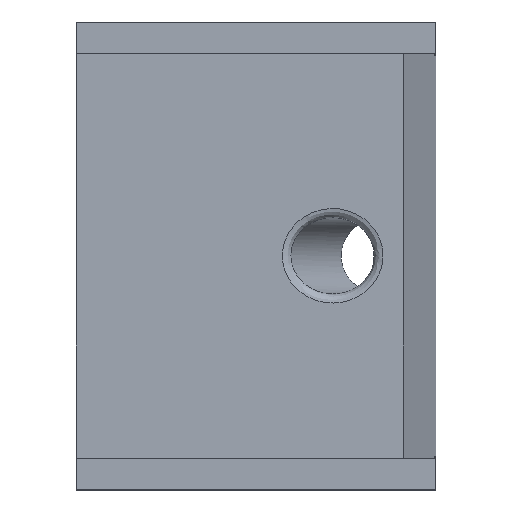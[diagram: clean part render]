
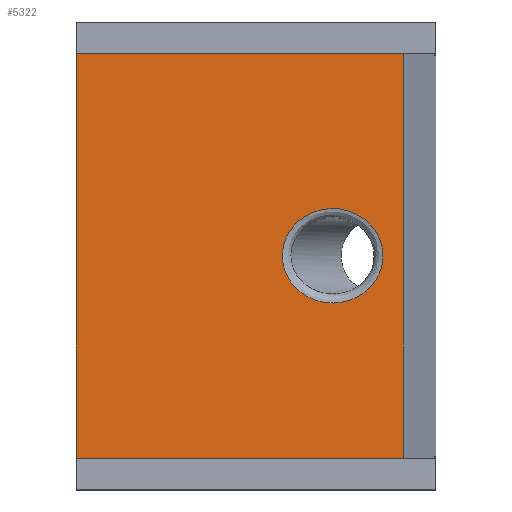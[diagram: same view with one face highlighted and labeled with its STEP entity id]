
A CAD part, top view. The second image highlights one B-rep face of the part: STEP entity #5322.
In plain terms, the highlighted planar face has unit normal (0, 0, 1).
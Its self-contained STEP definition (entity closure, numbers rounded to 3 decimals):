
#68 = DIRECTION ( 'NONE',  ( 0., -1., 0. ) ) ;
#169 = DIRECTION ( 'NONE',  ( 1., 0., 0. ) ) ;
#261 = CARTESIAN_POINT ( 'NONE',  ( 22.937, 0., 16. ) ) ;
#418 = CARTESIAN_POINT ( 'NONE',  ( 34.111, 10.5, 16. ) ) ;
#1026 = CARTESIAN_POINT ( 'NONE',  ( 36.36, -22.5, 16. ) ) ;
#1967 = CARTESIAN_POINT ( 'NONE',  ( 34.111, 0., 16. ) ) ;
#2153 = ORIENTED_EDGE ( 'NONE', *, *, #2855, .T. ) ;
#2391 = CARTESIAN_POINT ( 'NONE',  ( 0., 22.5, 16. ) ) ;
#2855 = EDGE_CURVE ( 'NONE', #6042, #5915, #10145, .T. ) ;
#3107 = CARTESIAN_POINT ( 'NONE',  ( 0., 22.5, 16. ) ) ;
#3432 = CARTESIAN_POINT ( 'NONE',  ( 36.36, 22.5, 16. ) ) ;
#3468 = CARTESIAN_POINT ( 'NONE',  ( 22.937, -10.5, 16. ) ) ;
#3821 = EDGE_LOOP ( 'NONE', ( #5164 ) ) ;
#3948 = LINE ( 'NONE', #6394, #8081 ) ;
#4069 = CARTESIAN_POINT ( 'NONE',  ( 36.36, 22.5, 16. ) ) ;
#4298 = CARTESIAN_POINT ( 'NONE',  ( 34.111, 0., 16. ) ) ;
#4615 =( BOUNDED_CURVE ( )  B_SPLINE_CURVE ( 3, ( #4298, #5083, #3468, #261, #9150, #418, #1967 ),
 .UNSPECIFIED., .T., .F. ) 
 B_SPLINE_CURVE_WITH_KNOTS ( ( 4, 3, 4 ),
 ( 0., 3.142, 6.283 ),
 .UNSPECIFIED. ) 
 CURVE ( )  GEOMETRIC_REPRESENTATION_ITEM ( )  RATIONAL_B_SPLINE_CURVE ( ( 1., 0.333, 0.333, 1., 0.333, 0.333, 1. ) ) 
 REPRESENTATION_ITEM ( '' )  );
#4917 = EDGE_LOOP ( 'NONE', ( #2153, #7524, #8921, #9907 ) ) ;
#5083 = CARTESIAN_POINT ( 'NONE',  ( 34.111, -10.5, 16. ) ) ;
#5164 = ORIENTED_EDGE ( 'NONE', *, *, #5584, .T. ) ;
#5230 = EDGE_CURVE ( 'NONE', #7987, #6042, #7176, .T. ) ;
#5322 = ADVANCED_FACE ( 'NONE', ( #7394, #9951 ), #9738, .F. ) ;
#5345 = VECTOR ( 'NONE', #68, 1000. ) ;
#5584 = EDGE_CURVE ( 'NONE', #9515, #9515, #4615, .T. ) ;
#5680 = AXIS2_PLACEMENT_3D ( 'NONE', #7452, #9793, #8174 ) ;
#5793 = VERTEX_POINT ( 'NONE', #4069 ) ;
#5915 = VERTEX_POINT ( 'NONE', #1026 ) ;
#6042 = VERTEX_POINT ( 'NONE', #8611 ) ;
#6394 = CARTESIAN_POINT ( 'NONE',  ( 0., 22.5, 16. ) ) ;
#6816 = CARTESIAN_POINT ( 'NONE',  ( 0., -22.5, 16. ) ) ;
#7176 = LINE ( 'NONE', #2391, #5345 ) ;
#7251 = VECTOR ( 'NONE', #9067, 1000. ) ;
#7394 = FACE_BOUND ( 'NONE', #3821, .T. ) ;
#7452 = CARTESIAN_POINT ( 'NONE',  ( 0., 22.5, 16. ) ) ;
#7524 = ORIENTED_EDGE ( 'NONE', *, *, #8807, .F. ) ;
#7557 = LINE ( 'NONE', #3432, #7251 ) ;
#7638 = EDGE_CURVE ( 'NONE', #7987, #5793, #3948, .T. ) ;
#7987 = VERTEX_POINT ( 'NONE', #3107 ) ;
#8081 = VECTOR ( 'NONE', #169, 1000. ) ;
#8174 = DIRECTION ( 'NONE',  ( -1., 0., 0. ) ) ;
#8522 = VECTOR ( 'NONE', #9948, 1000. ) ;
#8611 = CARTESIAN_POINT ( 'NONE',  ( 0., -22.5, 16. ) ) ;
#8807 = EDGE_CURVE ( 'NONE', #5793, #5915, #7557, .T. ) ;
#8921 = ORIENTED_EDGE ( 'NONE', *, *, #7638, .F. ) ;
#9067 = DIRECTION ( 'NONE',  ( 0., -1., 0. ) ) ;
#9150 = CARTESIAN_POINT ( 'NONE',  ( 22.937, 10.5, 16. ) ) ;
#9515 = VERTEX_POINT ( 'NONE', #10243 ) ;
#9738 = PLANE ( 'NONE',  #5680 ) ;
#9793 = DIRECTION ( 'NONE',  ( 0., 0., -1. ) ) ;
#9907 = ORIENTED_EDGE ( 'NONE', *, *, #5230, .T. ) ;
#9948 = DIRECTION ( 'NONE',  ( 1., 0., 0. ) ) ;
#9951 = FACE_OUTER_BOUND ( 'NONE', #4917, .T. ) ;
#10145 = LINE ( 'NONE', #6816, #8522 ) ;
#10243 = CARTESIAN_POINT ( 'NONE',  ( 34.111, 0., 16. ) ) ;
